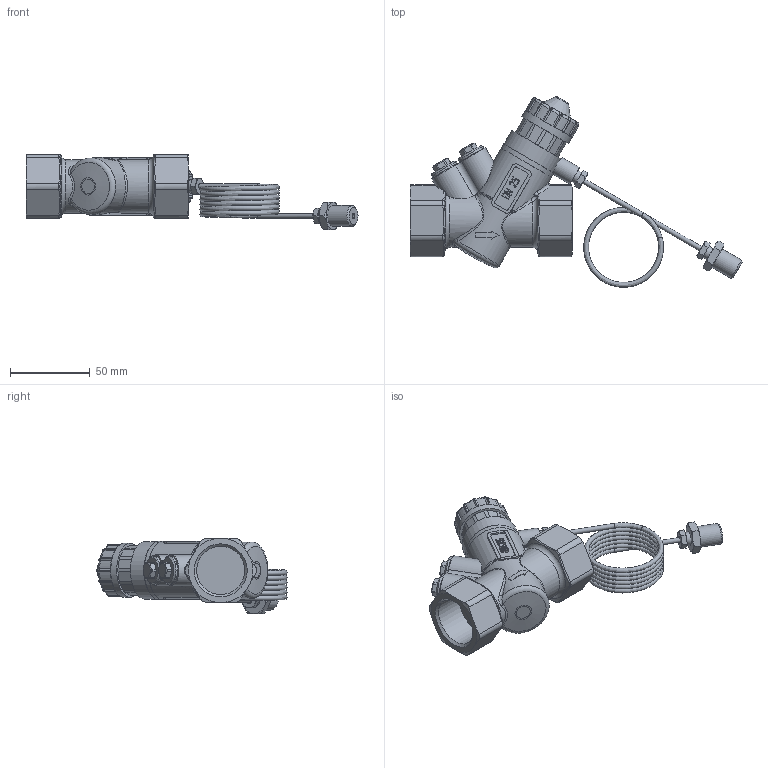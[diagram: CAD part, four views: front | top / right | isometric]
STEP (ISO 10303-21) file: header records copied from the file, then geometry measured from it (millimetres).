
FILE_DESCRIPTION(('STEP AP203'), '1');
FILE_NAME('VT.043.GA.0601', '', ('UNSPECIFIED'), ('UNSPECIFIED'), 'C3D Converter', 'C3D Toolkit', '');
FILE_SCHEMA(('CONFIG_CONTROL_DESIGN'));
Length unit declared in the file: millimetre
Products named in the file (1): ВР.493612.017.000 СБ
Bounding box: 208.44 x 119.51 x 47.1 mm (x, y, z)
Volume: 177867.5 mm3; surface area: 45718.6 mm2
Topology: 1 solids, 1 shells, 619 faces, 1533 edges, 945 vertices
Faces by surface type: plane 193, cylinder 170, bspline 105, extrusion 65, cone 59, torus 27
Full cylindrical faces by diameter (mm): 1.2 x2, 3 x3, 3.1 x1, 3.5 x1, 4.4 x1, 6.647 x1, 8 x2, 12 x1, 13.157 x1, 16.2 x2, 18 x2, 30.292 x2, 33.9 x1, 36.5 x1, 36.6 x1
Entity records: 36950 total; most frequent: CARTESIAN_POINT 23911, ORIENTED_EDGE 2968, DIRECTION 2162, EDGE_CURVE 1484, VERTEX_POINT 945, AXIS2_PLACEMENT_3D 775, EDGE_LOOP 697, B_SPLINE_CURVE_WITH_KNOTS 650
